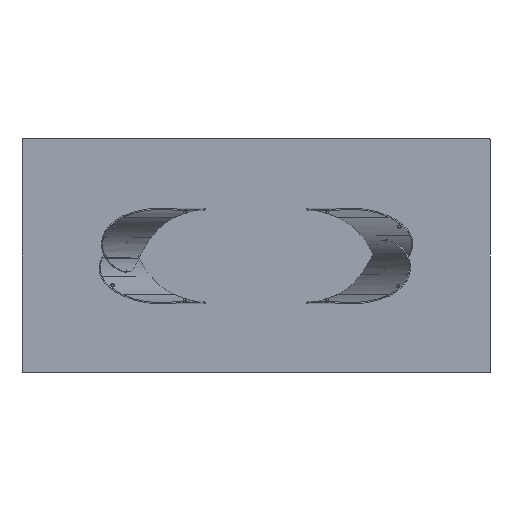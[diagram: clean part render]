
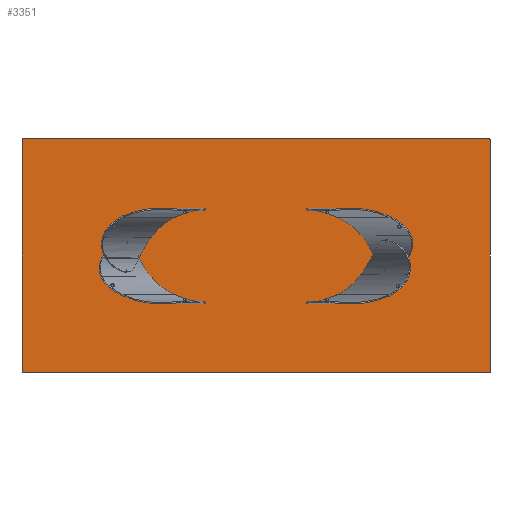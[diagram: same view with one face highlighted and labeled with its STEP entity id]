
A CAD part, front view. The second image highlights one B-rep face of the part: STEP entity #3351.
In plain terms, the highlighted planar face has unit normal (0, -1, 0).
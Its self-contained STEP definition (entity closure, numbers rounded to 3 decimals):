
#10 = CARTESIAN_POINT ( 'NONE',  ( 1195., 0., 600. ) ) ;
#195 = DIRECTION ( 'NONE',  ( 1., 0., 0. ) ) ;
#429 = LINE ( 'NONE', #8088, #3604 ) ;
#715 = AXIS2_PLACEMENT_3D ( 'NONE', #4671, #1944, #8545 ) ;
#770 = CARTESIAN_POINT ( 'NONE',  ( -1195., 0., -600. ) ) ;
#830 = PLANE ( 'NONE',  #2886 ) ;
#859 = ORIENTED_EDGE ( 'NONE', *, *, #11331, .T. ) ;
#1298 = EDGE_CURVE ( 'NONE', #6694, #2233, #5434, .T. ) ;
#1633 = AXIS2_PLACEMENT_3D ( 'NONE', #2835, #3653, #4575 ) ;
#1944 = DIRECTION ( 'NONE',  ( 0., -1., 0. ) ) ;
#1950 = CARTESIAN_POINT ( 'NONE',  ( 1200., 0., -595. ) ) ;
#2174 = DIRECTION ( 'NONE',  ( 0., 0., 1. ) ) ;
#2201 = ORIENTED_EDGE ( 'NONE', *, *, #8743, .F. ) ;
#2233 = VERTEX_POINT ( 'NONE', #10 ) ;
#2281 = EDGE_CURVE ( 'NONE', #7509, #2233, #11430, .T. ) ;
#2564 = ORIENTED_EDGE ( 'NONE', *, *, #3402, .T. ) ;
#2646 = DIRECTION ( 'NONE',  ( 0., -1., 0. ) ) ;
#2693 = CARTESIAN_POINT ( 'NONE',  ( -1200., 0., 595. ) ) ;
#2825 = DIRECTION ( 'NONE',  ( 0., 0., 1. ) ) ;
#2835 = CARTESIAN_POINT ( 'NONE',  ( -1195., 0., 595. ) ) ;
#2886 = AXIS2_PLACEMENT_3D ( 'NONE', #10555, #10306, #5722 ) ;
#3223 = LINE ( 'NONE', #4151, #8183 ) ;
#3226 = CARTESIAN_POINT ( 'NONE',  ( 1195., 0., -595. ) ) ;
#3271 = CARTESIAN_POINT ( 'NONE',  ( 1200., 0., 595. ) ) ;
#3351 = ADVANCED_FACE ( 'NONE', ( #8424 ), #830, .F. ) ;
#3382 = VERTEX_POINT ( 'NONE', #770 ) ;
#3402 = EDGE_CURVE ( 'NONE', #12100, #3382, #5661, .T. ) ;
#3596 = AXIS2_PLACEMENT_3D ( 'NONE', #3226, #6770, #5840 ) ;
#3604 = VECTOR ( 'NONE', #11841, 1000. ) ;
#3653 = DIRECTION ( 'NONE',  ( 0., -1., 0. ) ) ;
#4151 = CARTESIAN_POINT ( 'NONE',  ( -1200., 0., -600. ) ) ;
#4517 = ORIENTED_EDGE ( 'NONE', *, *, #2281, .F. ) ;
#4575 = DIRECTION ( 'NONE',  ( 0., 0., 1. ) ) ;
#4592 = VERTEX_POINT ( 'NONE', #6351 ) ;
#4671 = CARTESIAN_POINT ( 'NONE',  ( -1195., 0., -595. ) ) ;
#4804 = CIRCLE ( 'NONE', #1633, 5. ) ;
#4843 = CARTESIAN_POINT ( 'NONE',  ( -1200., 0., 600. ) ) ;
#5381 = VERTEX_POINT ( 'NONE', #2693 ) ;
#5408 = VERTEX_POINT ( 'NONE', #1950 ) ;
#5434 = CIRCLE ( 'NONE', #6837, 5. ) ;
#5661 = CIRCLE ( 'NONE', #715, 5. ) ;
#5722 = DIRECTION ( 'NONE',  ( 0., 0., 1. ) ) ;
#5840 = DIRECTION ( 'NONE',  ( 0., 0., 1. ) ) ;
#6103 = LINE ( 'NONE', #11975, #8381 ) ;
#6351 = CARTESIAN_POINT ( 'NONE',  ( 1195., 0., -600. ) ) ;
#6483 = ORIENTED_EDGE ( 'NONE', *, *, #1298, .T. ) ;
#6694 = VERTEX_POINT ( 'NONE', #3271 ) ;
#6770 = DIRECTION ( 'NONE',  ( 0., -1., 0. ) ) ;
#6837 = AXIS2_PLACEMENT_3D ( 'NONE', #10324, #2646, #2825 ) ;
#7509 = VERTEX_POINT ( 'NONE', #11573 ) ;
#7993 = EDGE_CURVE ( 'NONE', #6694, #5408, #6103, .T. ) ;
#8088 = CARTESIAN_POINT ( 'NONE',  ( -1200., 0., -600. ) ) ;
#8110 = DIRECTION ( 'NONE',  ( 0., 0., -1. ) ) ;
#8183 = VECTOR ( 'NONE', #2174, 1000. ) ;
#8376 = CARTESIAN_POINT ( 'NONE',  ( -1200., 0., -595. ) ) ;
#8381 = VECTOR ( 'NONE', #8110, 1000. ) ;
#8424 = FACE_OUTER_BOUND ( 'NONE', #9084, .T. ) ;
#8545 = DIRECTION ( 'NONE',  ( 0., 0., 1. ) ) ;
#8743 = EDGE_CURVE ( 'NONE', #12100, #5381, #3223, .T. ) ;
#8980 = CIRCLE ( 'NONE', #3596, 5. ) ;
#9084 = EDGE_LOOP ( 'NONE', ( #9250, #6483, #4517, #859, #2201, #2564, #10526, #10410 ) ) ;
#9250 = ORIENTED_EDGE ( 'NONE', *, *, #7993, .F. ) ;
#9606 = EDGE_CURVE ( 'NONE', #4592, #5408, #8980, .T. ) ;
#10306 = DIRECTION ( 'NONE',  ( 0., 1., 0. ) ) ;
#10324 = CARTESIAN_POINT ( 'NONE',  ( 1195., 0., 595. ) ) ;
#10410 = ORIENTED_EDGE ( 'NONE', *, *, #9606, .T. ) ;
#10526 = ORIENTED_EDGE ( 'NONE', *, *, #10600, .F. ) ;
#10555 = CARTESIAN_POINT ( 'NONE',  ( 0., 0., 0. ) ) ;
#10600 = EDGE_CURVE ( 'NONE', #4592, #3382, #429, .T. ) ;
#11331 = EDGE_CURVE ( 'NONE', #7509, #5381, #4804, .T. ) ;
#11430 = LINE ( 'NONE', #4843, #11652 ) ;
#11573 = CARTESIAN_POINT ( 'NONE',  ( -1195., 0., 600. ) ) ;
#11652 = VECTOR ( 'NONE', #195, 1000. ) ;
#11841 = DIRECTION ( 'NONE',  ( -1., 0., 0. ) ) ;
#11975 = CARTESIAN_POINT ( 'NONE',  ( 1200., 0., -600. ) ) ;
#12100 = VERTEX_POINT ( 'NONE', #8376 ) ;
